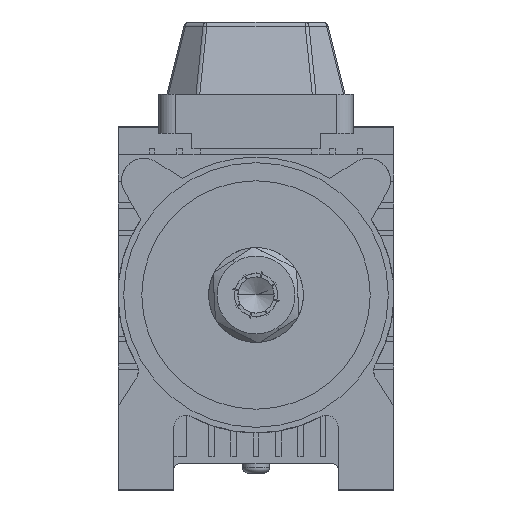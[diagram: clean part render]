
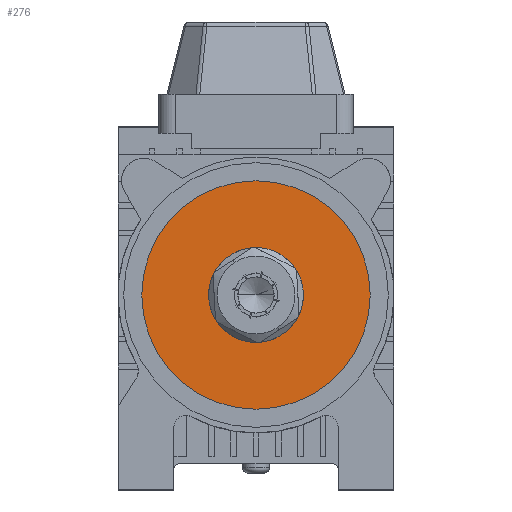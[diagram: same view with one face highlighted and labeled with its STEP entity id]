
A CAD part, front view. The second image highlights one B-rep face of the part: STEP entity #276.
In plain terms, the highlighted planar face has unit normal (0, -1, 0).
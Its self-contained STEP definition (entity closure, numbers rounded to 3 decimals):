
#276=ADVANCED_FACE('NONE',(#1225,#1226),#1227,.F.);
#1225=FACE_OUTER_BOUND('',#2798,.T.);
#1226=FACE_BOUND('',#2799,.T.);
#1227=PLANE('',#2800);
#2798=EDGE_LOOP('',(#5742,#5743));
#2799=EDGE_LOOP('',(#5744,#5745));
#2800=AXIS2_PLACEMENT_3D('',#5746,#5747,#5748);
#5742=ORIENTED_EDGE('',*,*,#10868,.T.);
#5743=ORIENTED_EDGE('',*,*,#10874,.T.);
#5744=ORIENTED_EDGE('',*,*,#10875,.F.);
#5745=ORIENTED_EDGE('',*,*,#10734,.F.);
#5746=CARTESIAN_POINT('',(0.0,-39.0,82.5));
#5747=DIRECTION('',(0.0,1.0,0.));
#5748=DIRECTION('',(1.0,0.0,0.0));
#10734=EDGE_CURVE('NONE',#13019,#13015,#13021,.T.);
#10868=EDGE_CURVE('NONE',#13273,#13277,#13279,.T.);
#10874=EDGE_CURVE('NONE',#13277,#13273,#13290,.T.);
#10875=EDGE_CURVE('NONE',#13015,#13019,#13291,.T.);
#13015=VERTEX_POINT('NONE',#16953);
#13019=VERTEX_POINT('',#16958);
#13021=CIRCLE('',#16961,15.0);
#13273=VERTEX_POINT('NONE',#17271);
#13277=VERTEX_POINT('',#17276);
#13279=CIRCLE('',#17279,41.0);
#13290=CIRCLE('',#17292,41.0);
#13291=CIRCLE('',#17293,15.0);
#16953=CARTESIAN_POINT('',(-15.0,-39.0,70.0));
#16958=CARTESIAN_POINT('',(15.0,-39.0,70.0));
#16961=AXIS2_PLACEMENT_3D('',#21542,#21543,#21544);
#17271=CARTESIAN_POINT('',(41.0,-39.0,70.0));
#17276=CARTESIAN_POINT('',(-41.0,-39.0,70.0));
#17279=AXIS2_PLACEMENT_3D('',#21824,#21825,#21826);
#17292=AXIS2_PLACEMENT_3D('',#21838,#21839,#21840);
#17293=AXIS2_PLACEMENT_3D('',#21841,#21842,#21843);
#21542=CARTESIAN_POINT('',(0.0,-39.0,70.0));
#21543=DIRECTION('',(0.0,-1.0,0.));
#21544=DIRECTION('',(-1.0,0.0,0.0));
#21824=CARTESIAN_POINT('',(0.0,-39.0,70.0));
#21825=DIRECTION('',(0.0,-1.0,0.));
#21826=DIRECTION('',(1.0,0.0,0.0));
#21838=CARTESIAN_POINT('',(0.0,-39.0,70.0));
#21839=DIRECTION('',(0.0,-1.0,0.));
#21840=DIRECTION('',(1.0,0.0,0.0));
#21841=CARTESIAN_POINT('',(0.0,-39.0,70.0));
#21842=DIRECTION('',(0.0,-1.0,0.));
#21843=DIRECTION('',(-1.0,0.0,0.0));
